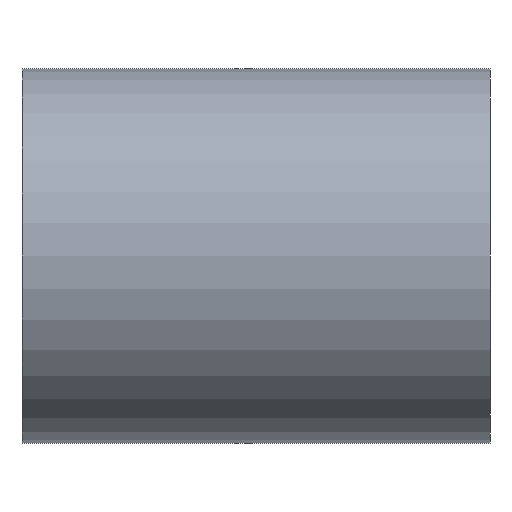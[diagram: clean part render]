
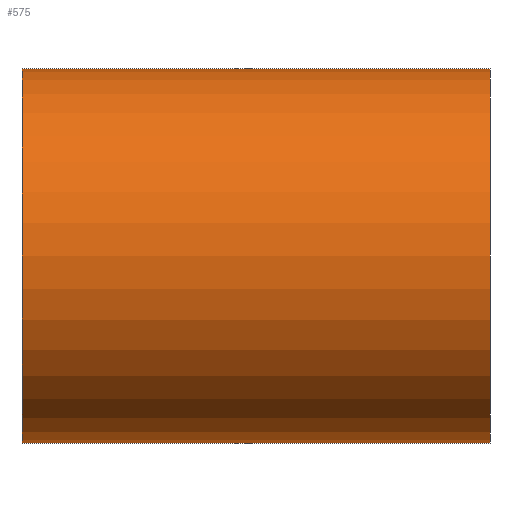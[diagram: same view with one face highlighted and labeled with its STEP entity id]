
A CAD part, front view. The second image highlights one B-rep face of the part: STEP entity #575.
In plain terms, the highlighted cylindrical face has radius 10 mm (diameter 20 mm), a partial arc.
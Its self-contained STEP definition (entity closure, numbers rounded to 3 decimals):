
#2 = VERTEX_POINT ( 'NONE', #354 ) ;
#9 = EDGE_CURVE ( 'NONE', #714, #2, #18, .T. ) ;
#18 = LINE ( 'NONE', #236, #255 ) ;
#58 = DIRECTION ( 'NONE',  ( -1., 0., 0. ) ) ;
#60 = ORIENTED_EDGE ( 'NONE', *, *, #476, .T. ) ;
#92 = VERTEX_POINT ( 'NONE', #713 ) ;
#115 = EDGE_CURVE ( 'NONE', #2, #516, #695, .T. ) ;
#121 = EDGE_LOOP ( 'NONE', ( #431, #460, #60, #445 ) ) ;
#128 = FACE_OUTER_BOUND ( 'NONE', #121, .T. ) ;
#134 = DIRECTION ( 'NONE',  ( 0., 0., 1. ) ) ;
#187 = DIRECTION ( 'NONE',  ( -1., 0., 0. ) ) ;
#236 = CARTESIAN_POINT ( 'NONE',  ( 0., 0., -10. ) ) ;
#255 = VECTOR ( 'NONE', #468, 1000. ) ;
#256 = EDGE_CURVE ( 'NONE', #714, #92, #687, .T. ) ;
#265 = DIRECTION ( 'NONE',  ( -1., 0., 0. ) ) ;
#280 = DIRECTION ( 'NONE',  ( 0., 0., 1. ) ) ;
#298 = AXIS2_PLACEMENT_3D ( 'NONE', #451, #187, #582 ) ;
#307 = CARTESIAN_POINT ( 'NONE',  ( 12.5, 0., -10. ) ) ;
#352 = CYLINDRICAL_SURFACE ( 'NONE', #298, 10. ) ;
#354 = CARTESIAN_POINT ( 'NONE',  ( -12.5, 0., -10. ) ) ;
#431 = ORIENTED_EDGE ( 'NONE', *, *, #9, .F. ) ;
#443 = DIRECTION ( 'NONE',  ( -1., 0., 0. ) ) ;
#445 = ORIENTED_EDGE ( 'NONE', *, *, #115, .F. ) ;
#449 = CARTESIAN_POINT ( 'NONE',  ( 0., 0., 10. ) ) ;
#451 = CARTESIAN_POINT ( 'NONE',  ( 0., 0., 0. ) ) ;
#460 = ORIENTED_EDGE ( 'NONE', *, *, #256, .T. ) ;
#468 = DIRECTION ( 'NONE',  ( -1., 0., 0. ) ) ;
#476 = EDGE_CURVE ( 'NONE', #92, #516, #562, .T. ) ;
#502 = CARTESIAN_POINT ( 'NONE',  ( -12.5, 0., 10. ) ) ;
#516 = VERTEX_POINT ( 'NONE', #502 ) ;
#548 = CARTESIAN_POINT ( 'NONE',  ( -12.5, 0., 0. ) ) ;
#562 = LINE ( 'NONE', #449, #708 ) ;
#575 = ADVANCED_FACE ( 'NONE', ( #128 ), #352, .T. ) ;
#582 = DIRECTION ( 'NONE',  ( 0., 0., 1. ) ) ;
#610 = CARTESIAN_POINT ( 'NONE',  ( 12.5, 0., 0. ) ) ;
#620 = AXIS2_PLACEMENT_3D ( 'NONE', #548, #265, #134 ) ;
#687 = CIRCLE ( 'NONE', #718, 10. ) ;
#695 = CIRCLE ( 'NONE', #620, 10. ) ;
#708 = VECTOR ( 'NONE', #58, 1000. ) ;
#713 = CARTESIAN_POINT ( 'NONE',  ( 12.5, 0., 10. ) ) ;
#714 = VERTEX_POINT ( 'NONE', #307 ) ;
#718 = AXIS2_PLACEMENT_3D ( 'NONE', #610, #443, #280 ) ;
